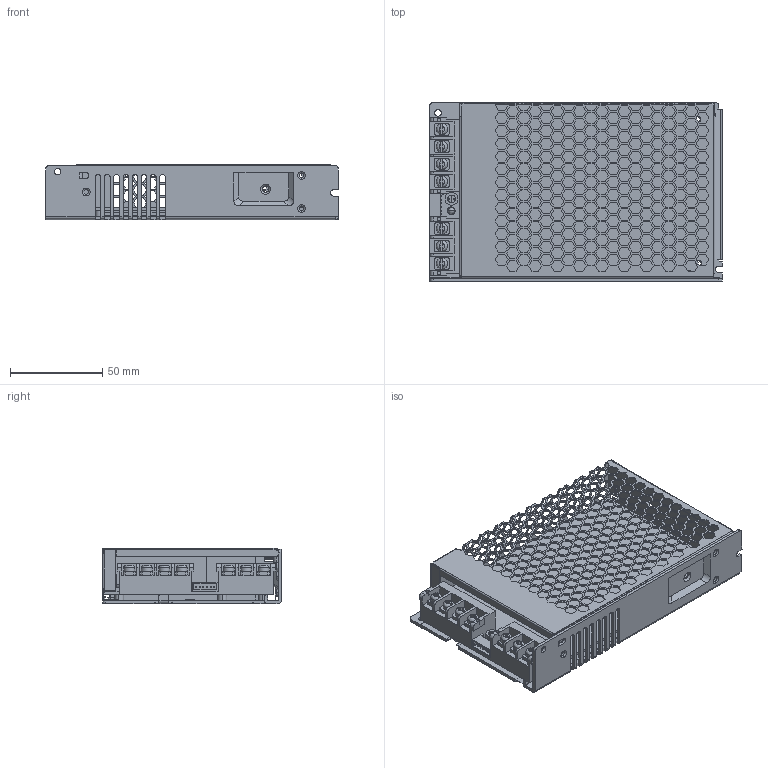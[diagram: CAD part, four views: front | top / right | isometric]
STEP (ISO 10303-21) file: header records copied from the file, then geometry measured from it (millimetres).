
FILE_DESCRIPTION((''),'2;1');
FILE_NAME('NSP-200-D','2025-08-25T16:53:11',('shalinice'),(''),'CREO PARAMETRIC BY PTC INC, 2017110','CREO PARAMETRIC BY PTC INC, 2017110','');
FILE_SCHEMA(('AUTOMOTIVE_DESIGN { 1 0 10303 214 1 1 1 1 }'));
Products named in the file (1): NSP-200-D
Bounding box: 159.03 x 97 x 30 mm (x, y, z)
Volume: 82148.9 mm3; surface area: 104715.6 mm2
Topology: 1 solids, 1 shells, 2765 faces, 8158 edges, 5370 vertices
Faces by surface type: plane 2409, cylinder 283, bspline 41, torus 20, cone 10, sphere 2
Entity records: 123152 total; most frequent: CARTESIAN_POINT 19420, ORIENTED_EDGE 16312, DIRECTION 14118, PRESENTATION_STYLE_ASSIGNMENT 8594, STYLED_ITEM 8319, CURVE_STYLE 8156, EDGE_CURVE 8156, VECTOR 7378
